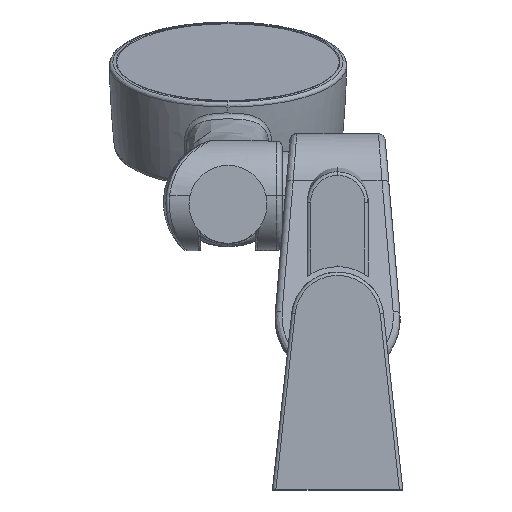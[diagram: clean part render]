
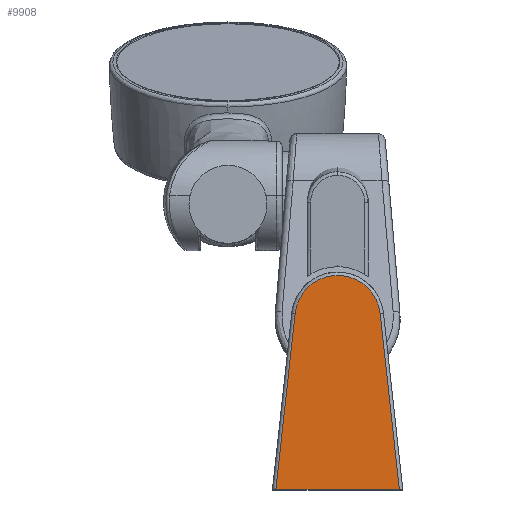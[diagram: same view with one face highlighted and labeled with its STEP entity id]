
A CAD part, front view. The second image highlights one B-rep face of the part: STEP entity #9908.
In plain terms, the highlighted planar face has unit normal (0, -1, 0).
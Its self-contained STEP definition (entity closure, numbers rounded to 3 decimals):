
#16 = CIRCLE ( 'NONE', #5192, 12.576 ) ;
#308 = VECTOR ( 'NONE', #11771, 1000. ) ;
#432 = CARTESIAN_POINT ( 'NONE',  ( 0., -350.5, 50.5 ) ) ;
#549 = VECTOR ( 'NONE', #3396, 1000. ) ;
#1559 = DIRECTION ( 'NONE',  ( 1., 0., 0. ) ) ;
#1771 = EDGE_CURVE ( 'NONE', #10171, #3835, #6570, .T. ) ;
#1874 = FACE_OUTER_BOUND ( 'NONE', #7519, .T. ) ;
#2312 = CARTESIAN_POINT ( 'NONE',  ( -18.173, -350.5, -0.128 ) ) ;
#2931 = CARTESIAN_POINT ( 'NONE',  ( 12.502, -350.5, 51.864 ) ) ;
#3012 = CARTESIAN_POINT ( 'NONE',  ( -12.502, -350.5, 51.864 ) ) ;
#3200 = EDGE_CURVE ( 'NONE', #10722, #3835, #5030, .T. ) ;
#3396 = DIRECTION ( 'NONE',  ( -0.108, 0., -0.994 ) ) ;
#3693 = VERTEX_POINT ( 'NONE', #2931 ) ;
#3835 = VERTEX_POINT ( 'NONE', #11996 ) ;
#4296 = ORIENTED_EDGE ( 'NONE', *, *, #11736, .T. ) ;
#4415 = DIRECTION ( 'NONE',  ( -0.108, 0., 0.994 ) ) ;
#4735 = AXIS2_PLACEMENT_3D ( 'NONE', #432, #6982, #11781 ) ;
#5030 = LINE ( 'NONE', #7874, #308 ) ;
#5138 = EDGE_CURVE ( 'NONE', #3693, #10171, #16, .T. ) ;
#5192 = AXIS2_PLACEMENT_3D ( 'NONE', #9153, #7255, #1559 ) ;
#6570 = LINE ( 'NONE', #2312, #549 ) ;
#6982 = DIRECTION ( 'NONE',  ( 0., 1., 0. ) ) ;
#7020 = LINE ( 'NONE', #10973, #11765 ) ;
#7255 = DIRECTION ( 'NONE',  ( 0., -1., 0. ) ) ;
#7519 = EDGE_LOOP ( 'NONE', ( #9680, #10921, #10627, #4296 ) ) ;
#7874 = CARTESIAN_POINT ( 'NONE',  ( -19.167, -350.5, -0.02 ) ) ;
#9153 = CARTESIAN_POINT ( 'NONE',  ( 0., -350.5, 50.5 ) ) ;
#9680 = ORIENTED_EDGE ( 'NONE', *, *, #5138, .T. ) ;
#9908 = ADVANCED_FACE ( 'NONE', ( #1874 ), #11497, .F. ) ;
#10171 = VERTEX_POINT ( 'NONE', #3012 ) ;
#10627 = ORIENTED_EDGE ( 'NONE', *, *, #3200, .F. ) ;
#10722 = VERTEX_POINT ( 'NONE', #11252 ) ;
#10921 = ORIENTED_EDGE ( 'NONE', *, *, #1771, .T. ) ;
#10973 = CARTESIAN_POINT ( 'NONE',  ( 12.502, -350.5, 51.864 ) ) ;
#11252 = CARTESIAN_POINT ( 'NONE',  ( 18.161, -350.5, -0.02 ) ) ;
#11497 = PLANE ( 'NONE',  #4735 ) ;
#11736 = EDGE_CURVE ( 'NONE', #10722, #3693, #7020, .T. ) ;
#11765 = VECTOR ( 'NONE', #4415, 1000. ) ;
#11771 = DIRECTION ( 'NONE',  ( -1., 0., 0. ) ) ;
#11781 = DIRECTION ( 'NONE',  ( 1., 0., 0. ) ) ;
#11996 = CARTESIAN_POINT ( 'NONE',  ( -18.161, -350.5, -0.02 ) ) ;
